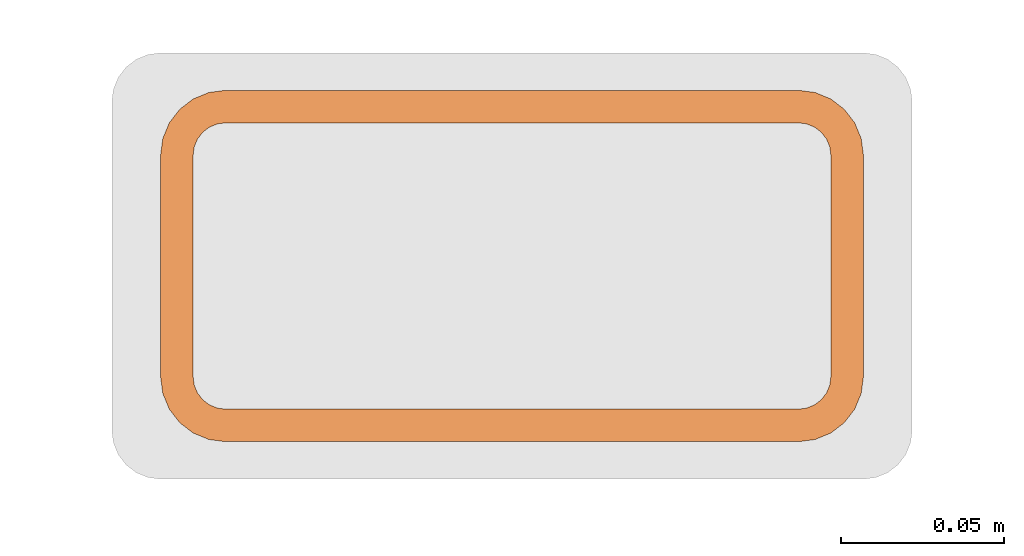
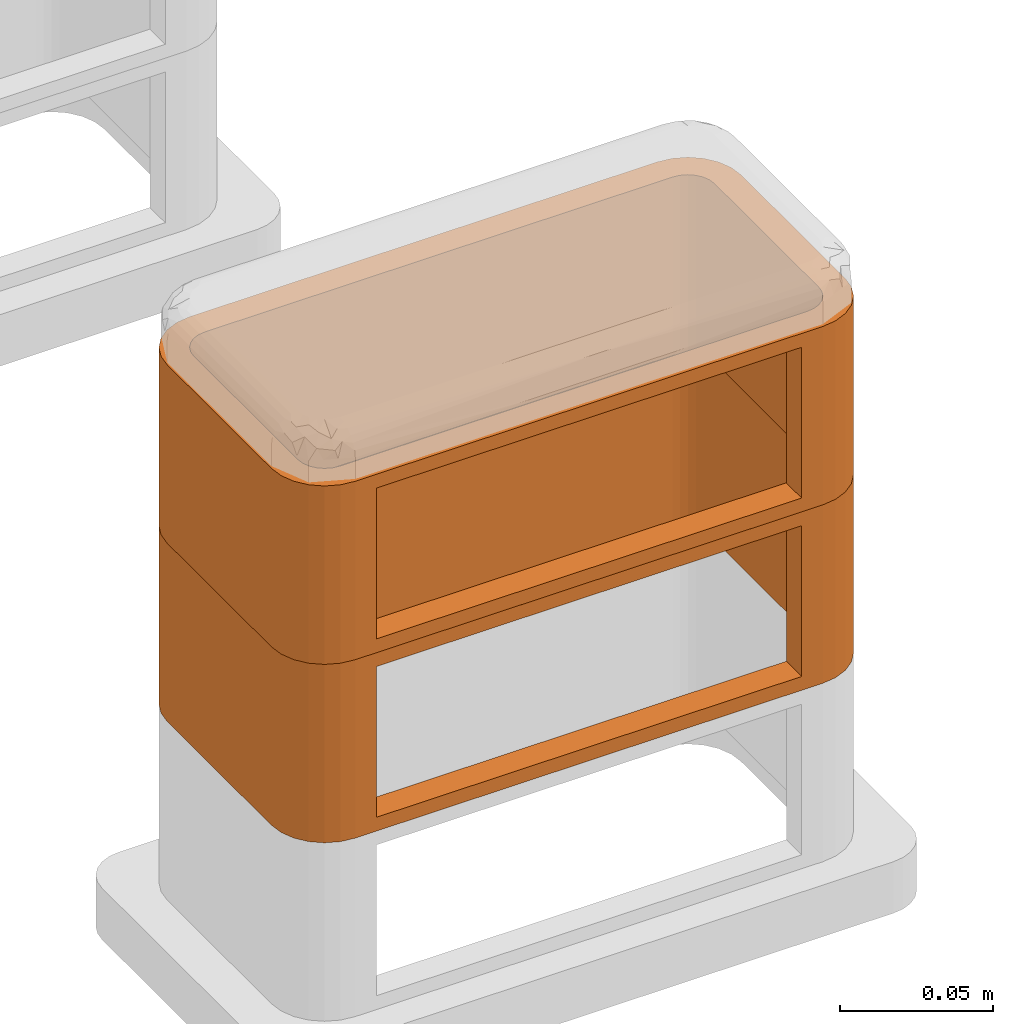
# One storey, part 53 of 87: 2 proxies.
"""IFC2X3 building model written with IfcOpenShell, lengths in millimetres."""

from ifc_helpers import new_model, entity, si_unit, converted_unit, derived_unit, direction, frame, origin, place, context, subcontext, project, spatial, faceted_brep, source, transform, mapped, material, type_object, type_shapes, element, save


model = new_model("IFC2X3")

# Units and contexts
model_context = context("Model", 3, precision=0.01, world=origin(), true_north=direction((6.12303176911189e-17, 1.0)))
body_context = subcontext(model_context, "Body", "Model", "MODEL_VIEW")
ifc_project = project(units=[si_unit("LENGTHUNIT", "METRE", prefix="MILLI"), si_unit("AREAUNIT", "SQUARE_METRE"), si_unit("VOLUMEUNIT", "CUBIC_METRE"), converted_unit("PLANEANGLEUNIT", "DEGREE", entity("IfcRatioMeasure", 0.0174532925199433), si_unit("PLANEANGLEUNIT", "RADIAN"), dimensions=[0, 0, 0, 0, 0, 0, 0]), si_unit("MASSUNIT", "GRAM", prefix="KILO"), derived_unit("MASSDENSITYUNIT", [(si_unit("MASSUNIT", "GRAM", prefix="KILO"), 1), (si_unit("LENGTHUNIT", "METRE"), -3)]), si_unit("TIMEUNIT", "SECOND"), si_unit("FREQUENCYUNIT", "HERTZ"), si_unit("THERMODYNAMICTEMPERATUREUNIT", "DEGREE_CELSIUS"), derived_unit("THERMALTRANSMITTANCEUNIT", [(si_unit("MASSUNIT", "GRAM", prefix="KILO"), 1), (si_unit("THERMODYNAMICTEMPERATUREUNIT", "KELVIN"), -1), (si_unit("TIMEUNIT", "SECOND"), -3)]), derived_unit("VOLUMETRICFLOWRATEUNIT", [(si_unit("LENGTHUNIT", "METRE"), 3), (si_unit("TIMEUNIT", "SECOND"), -1)]), si_unit("ELECTRICCURRENTUNIT", "AMPERE"), si_unit("ELECTRICVOLTAGEUNIT", "VOLT"), si_unit("POWERUNIT", "WATT"), si_unit("FORCEUNIT", "NEWTON", prefix="KILO"), si_unit("ILLUMINANCEUNIT", "LUX"), si_unit("LUMINOUSFLUXUNIT", "LUMEN"), si_unit("LUMINOUSINTENSITYUNIT", "CANDELA"), derived_unit("USERDEFINED", [(si_unit("MASSUNIT", "GRAM", prefix="KILO"), -1), (si_unit("LENGTHUNIT", "METRE"), -2), (si_unit("TIMEUNIT", "SECOND"), 3), (si_unit("LUMINOUSFLUXUNIT", "LUMEN"), 1)]), derived_unit("LINEARVELOCITYUNIT", [(si_unit("LENGTHUNIT", "METRE"), 1), (si_unit("TIMEUNIT", "SECOND"), -1)]), si_unit("PRESSUREUNIT", "PASCAL"), derived_unit("USERDEFINED", [(si_unit("LENGTHUNIT", "METRE"), -2), (si_unit("MASSUNIT", "GRAM", prefix="KILO"), 1), (si_unit("TIMEUNIT", "SECOND"), -2)])], contexts=[model_context])

# Site, building, storey
site_placement = place(None, origin())
site = spatial("IfcSite", under=ifc_project, at=site_placement, Name="Default", CompositionType="ELEMENT")
building_placement = place(site_placement, origin())
building = spatial("IfcBuilding", under=site, at=building_placement, Name="Наименование здания", CompositionType="ELEMENT")
storey_placement = place(building_placement, origin())
storey = spatial("IfcBuildingStorey", under=building, at=storey_placement, Name="Этаж 01", CompositionType="ELEMENT", Elevation=0.0)

# Proxies
ifc_material = material(Name="DKC_Пластик_Серо-черный")
building_element_proxy_type = type_object("IfcBuildingElementProxyType", Name="Вертикальное расширение напольной башенки BUS", PredefinedType="NOTDEFINED", material=ifc_material)
shared_shape = source(origin(), body_context, "Body", "Brep", [
    faceted_brep([(96.660254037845, 39.0, 71.0), (97.6592582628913, 36.5881904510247, 71.0), (105.320508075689, 44.0, 71.0), (102.142135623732, 48.1421356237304, 71.0), (95.0710678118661, 41.071067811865, 71.0), (107.318516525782, 39.1763809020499, 71.0), (108.0, 34.0, 71.0), (98.0, 34.0, 71.0), (98.0, -34.0, 71.0), (108.0, -34.0, 71.0), (97.6592582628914, -36.5881904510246, 71.0), (107.318516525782, -39.17638090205, 71.0), (105.320508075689, -44.0, 71.0), (96.6602540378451, -39.0, 71.0), (102.142135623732, -48.1421356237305, 71.0), (95.0710678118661, -41.0710678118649, 71.0), (98.0, -51.3205080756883, 71.0), (93.0, -42.6602540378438, 71.0), (93.1763809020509, -53.3185165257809, 71.0), (90.5881904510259, -43.6592582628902, 71.0), (88.0, -54.0, 71.0), (88.0, -44.0, 71.0), (-88.0, -54.0, 71.0), (-88.0, -44.0, 71.0), (-90.5881904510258, -43.6592582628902, 71.0), (-93.1763809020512, -53.3185165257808, 71.0), (-93.0, -42.6602540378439, 71.0), (-98.0, -51.3205080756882, 71.0), (-95.0710678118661, -41.071067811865, 71.0), (-102.142135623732, -48.1421356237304, 71.0), (-96.660254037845, -39.0, 71.0), (-105.320508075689, -44.0, 71.0), (-97.6592582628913, -36.5881904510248, 71.0), (-107.318516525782, -39.1763809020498, 71.0), (-108.0, -34.0, 71.0), (-98.0, -34.0, 71.0), (-108.0, 34.0, 71.0), (-98.0, 34.0, 71.0), (-97.6592582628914, 36.5881904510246, 71.0), (-107.318516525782, 39.1763809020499, 71.0), (-105.320508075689, 44.0, 71.0), (-96.6602540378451, 39.0, 71.0), (-102.142135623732, 48.1421356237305, 71.0), (-95.0710678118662, 41.0710678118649, 71.0), (-98.0, 51.3205080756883, 71.0), (-93.0, 42.6602540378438, 71.0), (-93.176380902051, 53.3185165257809, 71.0), (-90.5881904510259, 43.6592582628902, 71.0), (-88.0, 54.0, 71.0), (-88.0, 44.0, 71.0), (88.0, 44.0, 71.0), (88.0, 54.0, 71.0), (90.5881904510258, 43.6592582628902, 71.0), (93.1763809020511, 53.3185165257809, 71.0), (93.0, 42.6602540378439, 71.0), (98.0, 51.3205080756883, 71.0), (-96.6602540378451, 39.0, 0.0), (-97.6592582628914, 36.5881904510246, 0.0), (-105.320508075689, 44.0, 0.0), (-102.142135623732, 48.1421356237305, 0.0), (-95.0710678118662, 41.0710678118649, 0.0), (-107.318516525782, 39.1763809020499, 0.0), (-108.0, 34.0, 0.0), (-98.0, 34.0, 0.0), (-98.0, -34.0, 0.0), (-108.0, -34.0, 0.0), (-97.6592582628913, -36.5881904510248, 0.0), (-107.318516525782, -39.1763809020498, 0.0), (-105.320508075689, -44.0, 0.0), (-96.660254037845, -39.0, 0.0), (-102.142135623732, -48.1421356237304, 0.0), (-95.0710678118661, -41.071067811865, 0.0), (-98.0, -51.3205080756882, 0.0), (-93.0, -42.6602540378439, 0.0), (-93.1763809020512, -53.3185165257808, 0.0), (-90.5881904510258, -43.6592582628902, 0.0), (-88.0, -54.0, 0.0), (-88.0, -44.0, 0.0), (88.0, -54.0, 0.0), (88.0, -44.0, 0.0), (90.5881904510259, -43.6592582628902, 0.0), (93.1763809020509, -53.3185165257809, 0.0), (93.0, -42.6602540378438, 0.0), (98.0, -51.3205080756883, 0.0), (95.0710678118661, -41.0710678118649, 0.0), (102.142135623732, -48.1421356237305, 0.0), (96.6602540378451, -39.0, 0.0), (105.320508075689, -44.0, 0.0), (97.6592582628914, -36.5881904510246, 0.0), (107.318516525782, -39.17638090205, 0.0), (108.0, -34.0, 0.0), (98.0, -34.0, 0.0), (108.0, 34.0, 0.0), (98.0, 34.0, 0.0), (97.6592582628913, 36.5881904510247, 0.0), (107.318516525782, 39.1763809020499, 0.0), (105.320508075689, 44.0, 0.0), (96.660254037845, 39.0, 0.0), (102.142135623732, 48.1421356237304, 0.0), (95.0710678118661, 41.071067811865, 0.0), (98.0, 51.3205080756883, 0.0), (93.0, 42.6602540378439, 0.0), (93.1763809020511, 53.3185165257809, 0.0), (90.5881904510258, 43.6592582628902, 0.0), (88.0, 54.0, 0.0), (88.0, 44.0, 0.0), (-88.0, 44.0, 0.0), (-88.0, 54.0, 0.0), (-90.5881904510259, 43.6592582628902, 0.0), (-93.176380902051, 53.3185165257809, 0.0), (-93.0, 42.6602540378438, 0.0), (-98.0, 51.3205080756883, 0.0), (-80.0, -54.0, 65.5000000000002), (80.0, -54.0, 65.5000000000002), (-80.0, -54.0, 5.49999999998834), (80.0, -54.0, 5.49999999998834), (80.0, -44.0, 65.5000000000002), (-80.0, -44.0, 65.5000000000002), (80.0, -44.0, 5.49999999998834), (-80.0, -44.0, 5.49999999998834)], [[[0, 1, 2]], [[3, 0, 2]], [[0, 3, 4]], [[5, 2, 1]], [[6, 5, 1]], [[1, 7, 6]], [[6, 7, 8]], [[8, 9, 6]], [[9, 8, 10]], [[9, 10, 11]], [[11, 10, 12]], [[13, 12, 10]], [[14, 12, 13]], [[15, 14, 13]], [[14, 15, 16]], [[17, 16, 15]], [[17, 18, 16]], [[19, 18, 17]], [[18, 19, 20]], [[21, 20, 19]], [[20, 21, 22]], [[23, 22, 21]], [[22, 23, 24]], [[24, 25, 22]], [[25, 24, 26]], [[25, 26, 27]], [[27, 26, 28]], [[28, 29, 27]], [[28, 30, 29]], [[29, 30, 31]], [[30, 32, 31]], [[33, 31, 32]], [[32, 34, 33]], [[32, 35, 34]], [[34, 35, 36]], [[37, 36, 35]], [[37, 38, 36]], [[39, 36, 38]], [[38, 40, 39]], [[41, 40, 38]], [[42, 40, 41]], [[42, 41, 43]], [[42, 43, 44]], [[43, 45, 44]], [[44, 45, 46]], [[45, 47, 46]], [[47, 48, 46]], [[47, 49, 48]], [[48, 49, 50]], [[50, 51, 48]], [[52, 51, 50]], [[52, 53, 51]], [[52, 54, 53]], [[55, 54, 4]], [[55, 53, 54]], [[3, 55, 4]], [[56, 57, 58]], [[59, 56, 58]], [[56, 59, 60]], [[61, 58, 57]], [[62, 61, 57]], [[57, 63, 62]], [[62, 63, 64]], [[64, 65, 62]], [[65, 64, 66]], [[65, 66, 67]], [[67, 66, 68]], [[69, 68, 66]], [[70, 68, 69]], [[71, 70, 69]], [[70, 71, 72]], [[73, 72, 71]], [[73, 74, 72]], [[75, 74, 73]], [[74, 75, 76]], [[77, 76, 75]], [[76, 77, 78]], [[79, 78, 77]], [[78, 79, 80]], [[80, 81, 78]], [[81, 80, 82]], [[81, 82, 83]], [[83, 82, 84]], [[84, 85, 83]], [[84, 86, 85]], [[85, 86, 87]], [[86, 88, 87]], [[89, 87, 88]], [[88, 90, 89]], [[88, 91, 90]], [[90, 91, 92]], [[93, 92, 91]], [[93, 94, 92]], [[95, 92, 94]], [[94, 96, 95]], [[97, 96, 94]], [[98, 96, 97]], [[98, 97, 99]], [[98, 99, 100]], [[99, 101, 100]], [[100, 101, 102]], [[101, 103, 102]], [[103, 104, 102]], [[103, 105, 104]], [[104, 105, 106]], [[106, 107, 104]], [[108, 107, 106]], [[108, 109, 107]], [[108, 110, 109]], [[111, 110, 60]], [[111, 109, 110]], [[59, 111, 60]], [[48, 51, 104, 107]], [[46, 109, 111, 44]], [[44, 111, 59, 42]], [[107, 109, 46, 48]], [[40, 58, 61, 39]], [[39, 61, 62, 36]], [[42, 59, 58, 40]], [[34, 36, 62, 65]], [[33, 67, 68, 31]], [[31, 68, 70, 29]], [[65, 67, 33, 34]], [[27, 72, 74, 25]], [[25, 74, 76, 22]], [[29, 70, 72, 27]], [[22, 112, 113]], [[112, 22, 114]], [[113, 20, 22]], [[76, 114, 22]], [[114, 76, 115]], [[78, 115, 76]], [[115, 78, 20]], [[20, 113, 115]], [[18, 81, 83, 16]], [[16, 83, 85, 14]], [[78, 81, 18, 20]], [[12, 87, 89, 11]], [[11, 89, 90, 9]], [[14, 85, 87, 12]], [[6, 9, 90, 92]], [[96, 98, 3, 2]], [[6, 92, 95, 5]], [[95, 96, 2, 5]], [[55, 100, 102, 53]], [[53, 102, 104, 51]], [[3, 98, 100, 55]], [[52, 50, 105, 103]], [[54, 52, 103, 101]], [[99, 4, 54, 101]], [[94, 93, 7, 1]], [[94, 1, 0, 97]], [[97, 0, 4, 99]], [[8, 7, 93, 91]], [[10, 8, 91, 88]], [[13, 10, 88, 86]], [[84, 15, 13, 86]], [[79, 21, 19, 80]], [[80, 19, 17, 82]], [[82, 17, 15, 84]], [[21, 116, 117]], [[116, 21, 118]], [[117, 23, 21]], [[79, 118, 21]], [[118, 79, 119]], [[77, 119, 79]], [[119, 77, 23]], [[23, 117, 119]], [[75, 73, 26, 24]], [[77, 75, 24, 23]], [[71, 28, 26, 73]], [[64, 35, 32, 66]], [[69, 66, 32, 30]], [[69, 30, 28, 71]], [[37, 35, 64, 63]], [[57, 56, 41, 38]], [[63, 57, 38, 37]], [[60, 43, 41, 56]], [[108, 106, 49, 47]], [[110, 108, 47, 45]], [[110, 45, 43, 60]], [[50, 49, 106, 105]], [[116, 113, 112, 117]], [[117, 112, 114, 119]], [[118, 119, 114, 115]], [[118, 115, 113, 116]]]),
])
type_shapes(building_element_proxy_type, [shared_shape])
for number, where in (
    (1, (28063.7191062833, 210.360380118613, 91.5000000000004)),
    (2, (28063.7191062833, 210.360380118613, 162.5)),
):
    element("IfcBuildingElementProxy", number, at=place(storey_placement, frame(where)), inside=storey, type_object=building_element_proxy_type, material=ifc_material, Name="Вертикальное расширение напольной башенки BUS:Вертикальное расширение напольной башенки BUS", ObjectType="Вертикальное расширение напольной башенки BUS", context=body_context, shape_type="MappedRepresentation", body=[
        mapped(shared_shape, transform((0.0, 0.0, 0.0), scale=1.0)),
    ])

save(model, "model.ifc")
